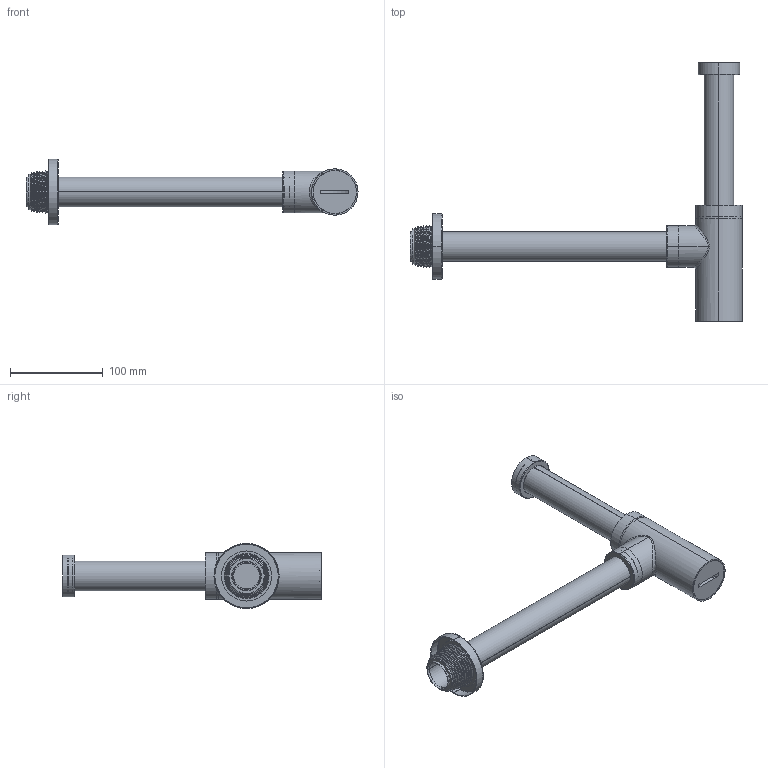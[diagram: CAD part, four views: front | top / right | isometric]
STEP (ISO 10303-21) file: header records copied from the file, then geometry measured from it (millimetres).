
FILE_DESCRIPTION((''),'2;1');
FILE_NAME('48480--00_GEN_ASM','2023-02-01T11:22:09',('sosm1'),(''),'CREO PARAMETRIC BY PTC INC, 2022244','CREO PARAMETRIC BY PTC INC, 2022244','');
FILE_SCHEMA(('CONFIG_CONTROL_DESIGN'));
Length unit declared in the file: millimetre
Products named in the file (10): 44874--; 44876--; 44871--; 44873--; 44875--; 44872--; 44870--; 4487800; 48480--00_SUB01_ASM; 48480--00_GEN_ASM
Assembly tree (10 placements, depth 3):
  48480--00_GEN_ASM
    48480--00_SUB01_ASM
      44874--
      44876--
      44871--
      44873--
      44875--
      44872--  x2
      44870--
      4487800
Bounding box: 358.5 x 278.8 x 70.5 mm (x, y, z)
Volume: 128095.1 mm3; surface area: 196849.5 mm2
Topology: 9 solids, 16 shells, 347 faces, 753 edges, 457 vertices
Faces by surface type: cylinder 110, cone 77, torus 70, plane 64, bspline 24, sphere 2
Entity records: 14773 total; most frequent: CARTESIAN_POINT 7297, DIRECTION 1680, ORIENTED_EDGE 1392, AXIS2_PLACEMENT_3D 738, EDGE_CURVE 707, VERTEX_POINT 429, CIRCLE 399, EDGE_LOOP 373
